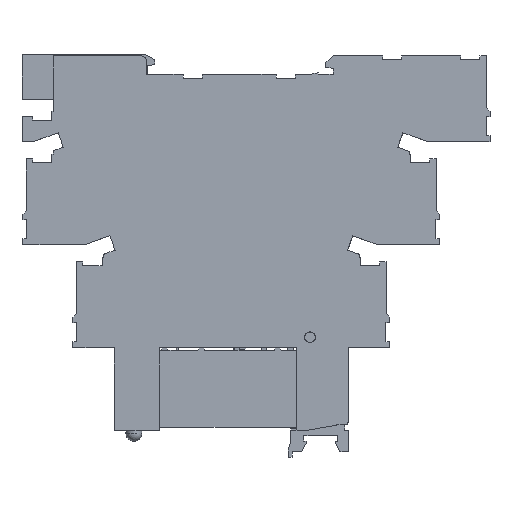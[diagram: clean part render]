
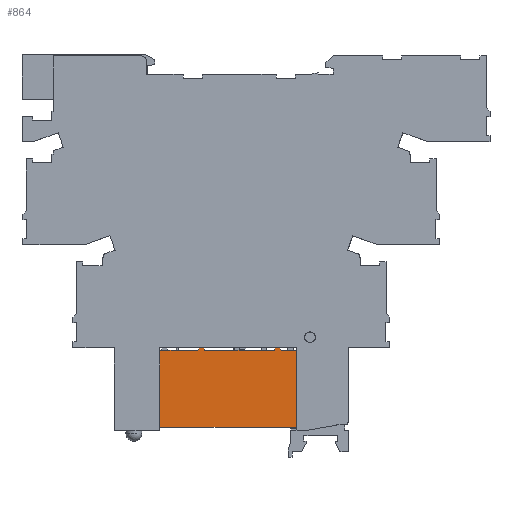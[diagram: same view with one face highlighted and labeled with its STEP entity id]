
A CAD part, top view. The second image highlights one B-rep face of the part: STEP entity #864.
In plain terms, the highlighted planar face has unit normal (0, 0, 1).
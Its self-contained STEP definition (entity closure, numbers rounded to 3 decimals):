
#396=PLANE('',#9214);
#864=ADVANCED_FACE('',(#1361),#396,.T.);
#1361=FACE_OUTER_BOUND('',#1842,.T.);
#1842=EDGE_LOOP('',(#5344,#5345,#5346,#5347,#5348,#5349,#5350,#5351,#5352,
#5353,#5354,#5355));
#2505=LINE('',#25960,#3578);
#2509=LINE('',#25968,#3582);
#2513=LINE('',#25976,#3586);
#2519=LINE('',#25990,#3592);
#2523=LINE('',#25999,#3596);
#2525=LINE('',#26002,#3598);
#2533=LINE('',#26016,#3606);
#2534=LINE('',#26018,#3607);
#2535=LINE('',#26020,#3608);
#2536=LINE('',#26021,#3609);
#2537=LINE('',#26023,#3610);
#2538=LINE('',#26025,#3611);
#3578=VECTOR('',#10338,1.);
#3582=VECTOR('',#10342,1.);
#3586=VECTOR('',#10346,1.);
#3592=VECTOR('',#10356,1.);
#3596=VECTOR('',#10362,1.);
#3598=VECTOR('',#10366,1.);
#3606=VECTOR('',#10378,1.);
#3607=VECTOR('',#10379,1.);
#3608=VECTOR('',#10380,1.);
#3609=VECTOR('',#10381,1.);
#3610=VECTOR('',#10382,1.);
#3611=VECTOR('',#10383,1.);
#5344=ORIENTED_EDGE('',*,*,#8164,.T.);
#5345=ORIENTED_EDGE('',*,*,#8166,.T.);
#5346=ORIENTED_EDGE('',*,*,#8153,.T.);
#5347=ORIENTED_EDGE('',*,*,#8174,.F.);
#5348=ORIENTED_EDGE('',*,*,#8175,.F.);
#5349=ORIENTED_EDGE('',*,*,#8176,.F.);
#5350=ORIENTED_EDGE('',*,*,#8149,.T.);
#5351=ORIENTED_EDGE('',*,*,#8177,.F.);
#5352=ORIENTED_EDGE('',*,*,#8178,.F.);
#5353=ORIENTED_EDGE('',*,*,#8179,.F.);
#5354=ORIENTED_EDGE('',*,*,#8145,.T.);
#5355=ORIENTED_EDGE('',*,*,#8160,.T.);
#7182=VERTEX_POINT('',#25959);
#7183=VERTEX_POINT('',#25961);
#7186=VERTEX_POINT('',#25967);
#7187=VERTEX_POINT('',#25969);
#7190=VERTEX_POINT('',#25975);
#7191=VERTEX_POINT('',#25977);
#7197=VERTEX_POINT('',#25991);
#7200=VERTEX_POINT('',#25998);
#7205=VERTEX_POINT('',#26017);
#7206=VERTEX_POINT('',#26019);
#7207=VERTEX_POINT('',#26022);
#7208=VERTEX_POINT('',#26024);
#8145=EDGE_CURVE('',#7183,#7182,#2505,.T.);
#8149=EDGE_CURVE('',#7187,#7186,#2509,.T.);
#8153=EDGE_CURVE('',#7191,#7190,#2513,.T.);
#8160=EDGE_CURVE('',#7182,#7197,#2519,.T.);
#8164=EDGE_CURVE('',#7197,#7200,#2523,.T.);
#8166=EDGE_CURVE('',#7200,#7191,#2525,.T.);
#8174=EDGE_CURVE('',#7205,#7190,#2533,.T.);
#8175=EDGE_CURVE('',#7206,#7205,#2534,.T.);
#8176=EDGE_CURVE('',#7187,#7206,#2535,.T.);
#8177=EDGE_CURVE('',#7207,#7186,#2536,.T.);
#8178=EDGE_CURVE('',#7208,#7207,#2537,.T.);
#8179=EDGE_CURVE('',#7183,#7208,#2538,.T.);
#9214=AXIS2_PLACEMENT_3D('',#26026,#10384,#10385);
#10338=DIRECTION('',(-1.,0.,0.));
#10342=DIRECTION('',(-1.,0.,0.));
#10346=DIRECTION('',(-1.,0.,0.));
#10356=DIRECTION('',(0.,-1.,0.));
#10362=DIRECTION('',(1.,0.,0.));
#10366=DIRECTION('',(0.,1.,0.));
#10378=DIRECTION('',(0.514,-0.857,0.));
#10379=DIRECTION('',(1.,0.,0.));
#10380=DIRECTION('',(0.514,0.857,0.));
#10381=DIRECTION('',(0.514,-0.857,0.));
#10382=DIRECTION('',(1.,0.,0.));
#10383=DIRECTION('',(0.514,0.857,0.));
#10384=DIRECTION('',(0.,0.,1.));
#10385=DIRECTION('',(-1.,0.,0.));
#25959=CARTESIAN_POINT('',(-19.65,-68.037,0.));
#25960=CARTESIAN_POINT('',(8.35,-68.037,0.));
#25961=CARTESIAN_POINT('',(-11.15,-68.037,0.));
#25967=CARTESIAN_POINT('',(-9.75,-68.037,0.));
#25968=CARTESIAN_POINT('',(8.35,-68.037,0.));
#25969=CARTESIAN_POINT('',(3.35,-68.037,0.));
#25975=CARTESIAN_POINT('',(4.75,-68.037,0.));
#25976=CARTESIAN_POINT('',(8.35,-68.037,0.));
#25977=CARTESIAN_POINT('',(8.35,-68.037,0.));
#25990=CARTESIAN_POINT('',(-19.65,-68.037,0.));
#25991=CARTESIAN_POINT('',(-19.65,-82.537,0.));
#25998=CARTESIAN_POINT('',(8.35,-82.537,0.));
#25999=CARTESIAN_POINT('',(-19.65,-82.537,0.));
#26002=CARTESIAN_POINT('',(8.35,-82.537,0.));
#26016=CARTESIAN_POINT('',(4.45,-67.537,0.));
#26017=CARTESIAN_POINT('',(4.45,-67.537,0.));
#26018=CARTESIAN_POINT('',(3.65,-67.537,0.));
#26019=CARTESIAN_POINT('',(3.65,-67.537,0.));
#26020=CARTESIAN_POINT('',(3.35,-68.037,0.));
#26021=CARTESIAN_POINT('',(-10.05,-67.537,0.));
#26022=CARTESIAN_POINT('',(-10.05,-67.537,0.));
#26023=CARTESIAN_POINT('',(-10.85,-67.537,0.));
#26024=CARTESIAN_POINT('',(-10.85,-67.537,0.));
#26025=CARTESIAN_POINT('',(-11.15,-68.037,0.));
#26026=CARTESIAN_POINT('',(-19.65,-68.037,0.));
